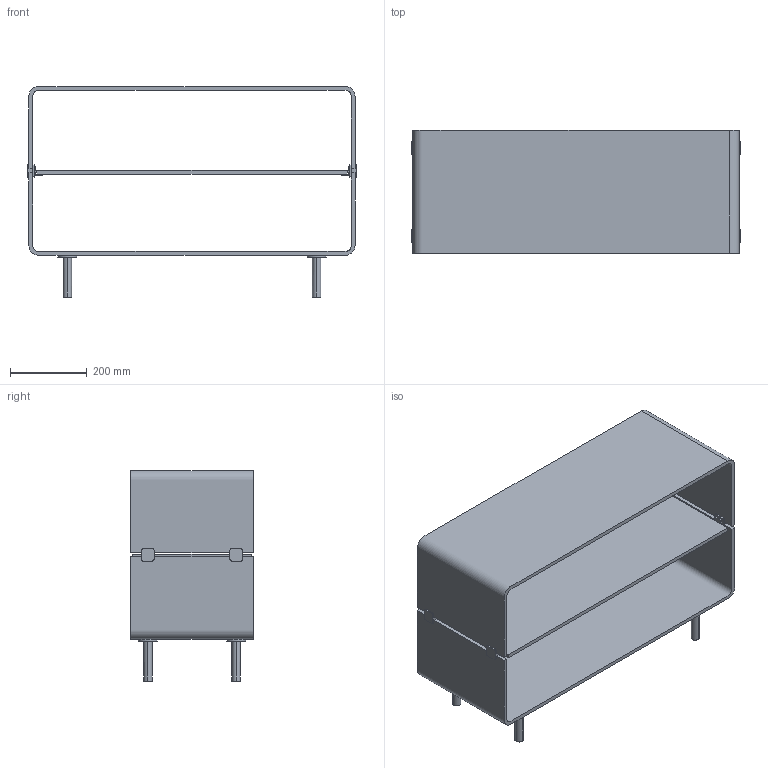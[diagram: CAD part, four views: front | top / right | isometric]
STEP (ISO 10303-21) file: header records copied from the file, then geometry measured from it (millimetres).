
FILE_DESCRIPTION(/* description */ (''),/* implementation_level */ '2;1');
FILE_NAME(/* name */ '270.630 - C&C Side 58x32 piedini',/* time_stamp */ '2010-11-04T12:29:22+01:00',/* author */ (''),/* organization */ (''),/* preprocessor_version */ 'ST-DEVELOPER v10',/* originating_system */ '',/* authorisation */ '');
FILE_SCHEMA (('CONFIG_CONTROL_DESIGN'));
Length unit declared in the file: centimetre
Products named in the file (1): 1
Bounding box: 858 x 320 x 550 mm (x, y, z)
Volume: 9120369 mm3; surface area: 2251312.1 mm2
Topology: 19 solids, 19 shells, 184 faces, 426 edges, 284 vertices
Faces by surface type: plane 122, bspline 62
Entity records: 5258 total; most frequent: CARTESIAN_POINT 2332, ORIENTED_EDGE 852, EDGE_CURVE 426, B_SPLINE_CURVE_WITH_KNOTS 302, VERTEX_POINT 284, EDGE_LOOP 188, ADVANCED_FACE 184, FACE_OUTER_BOUND 184
